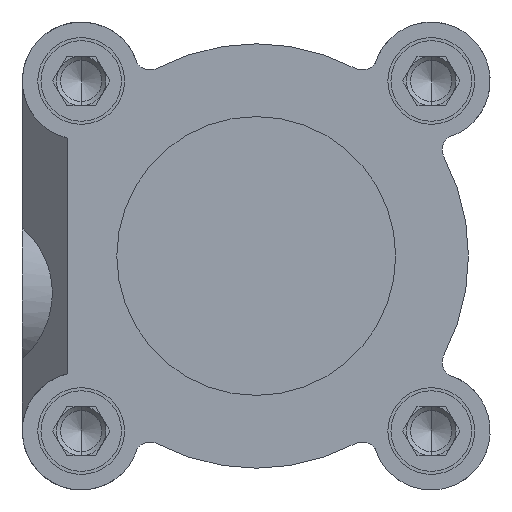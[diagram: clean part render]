
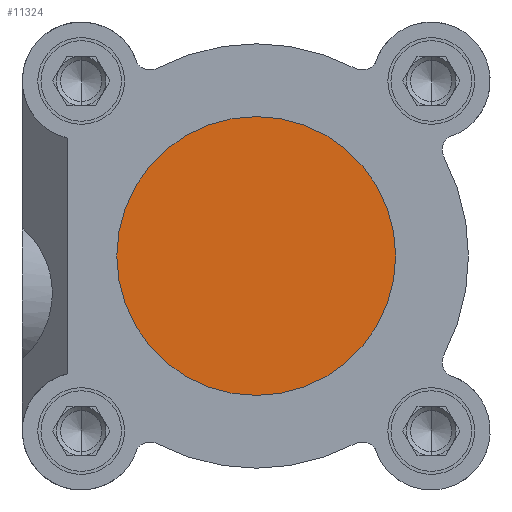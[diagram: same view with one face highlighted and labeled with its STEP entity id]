
A CAD part, left-side view. The second image highlights one B-rep face of the part: STEP entity #11324.
In plain terms, the highlighted planar face has unit normal (-1, 0, 0).
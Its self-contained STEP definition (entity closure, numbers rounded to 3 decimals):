
#44 = EDGE_CURVE ( 'NONE', #9460, #651, #2663, .T. ) ;
#379 = CARTESIAN_POINT ( 'NONE',  ( -175., 0., -22.5 ) ) ;
#651 = VERTEX_POINT ( 'NONE', #379 ) ;
#739 = FACE_OUTER_BOUND ( 'NONE', #10344, .T. ) ;
#1216 = ORIENTED_EDGE ( 'NONE', *, *, #44, .T. ) ;
#1909 = DIRECTION ( 'NONE',  ( 0., 0., 1. ) ) ;
#2663 = CIRCLE ( 'NONE', #4172, 22.5 ) ;
#2966 = DIRECTION ( 'NONE',  ( -1., 0., 0. ) ) ;
#3676 = CARTESIAN_POINT ( 'NONE',  ( -175., 0., 0. ) ) ;
#3919 = CIRCLE ( 'NONE', #8431, 22.5 ) ;
#4172 = AXIS2_PLACEMENT_3D ( 'NONE', #5560, #2966, #1909 ) ;
#4324 = PLANE ( 'NONE',  #5632 ) ;
#5266 = DIRECTION ( 'NONE',  ( 1., 0., 0. ) ) ;
#5334 = DIRECTION ( 'NONE',  ( -1., 0., 0. ) ) ;
#5560 = CARTESIAN_POINT ( 'NONE',  ( -175., 0., 0. ) ) ;
#5632 = AXIS2_PLACEMENT_3D ( 'NONE', #7917, #5266, #8852 ) ;
#7578 = CARTESIAN_POINT ( 'NONE',  ( -175., 0., 22.5 ) ) ;
#7917 = CARTESIAN_POINT ( 'NONE',  ( -175., 22.5, 0. ) ) ;
#7985 = DIRECTION ( 'NONE',  ( 0., 0., 1. ) ) ;
#8431 = AXIS2_PLACEMENT_3D ( 'NONE', #3676, #5334, #7985 ) ;
#8852 = DIRECTION ( 'NONE',  ( 0., 0., -1. ) ) ;
#9460 = VERTEX_POINT ( 'NONE', #7578 ) ;
#10344 = EDGE_LOOP ( 'NONE', ( #1216, #10398 ) ) ;
#10398 = ORIENTED_EDGE ( 'NONE', *, *, #10929, .T. ) ;
#10929 = EDGE_CURVE ( 'NONE', #651, #9460, #3919, .T. ) ;
#11324 = ADVANCED_FACE ( 'NONE', ( #739 ), #4324, .F. ) ;
